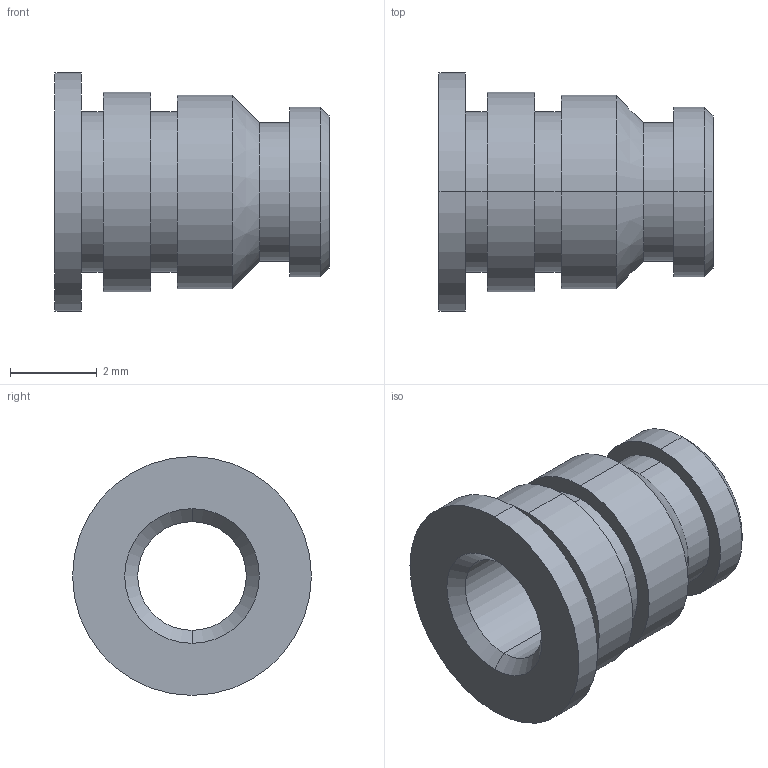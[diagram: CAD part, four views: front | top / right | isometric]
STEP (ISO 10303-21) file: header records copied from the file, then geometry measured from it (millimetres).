
FILE_DESCRIPTION (( 'STEP AP203' ), '1' );
FILE_NAME ('FSUK-HISH-M03-S.STEP', '2021-04-15T08:54:05', ( '' ), ( '' ), 'SwSTEP 2.0', 'SolidWorks 2021', '' );
FILE_SCHEMA (( 'CONFIG_CONTROL_DESIGN' ));
Length unit declared in the file: millimetre
Products named in the file (1): FSUK-HISH-M03-S
Bounding box: 6.31 x 5.5 x 5.5 mm (x, y, z)
Volume: 56.1 mm3; surface area: 190.6 mm2
Topology: 1 solids, 1 shells, 31 faces, 62 edges, 38 vertices
Faces by surface type: cylinder 16, cone 8, plane 7
Entity records: 895 total; most frequent: DIRECTION 164, CARTESIAN_POINT 132, ORIENTED_EDGE 124, AXIS2_PLACEMENT_3D 70, EDGE_CURVE 62, CIRCLE 38, EDGE_LOOP 38, VERTEX_POINT 38
